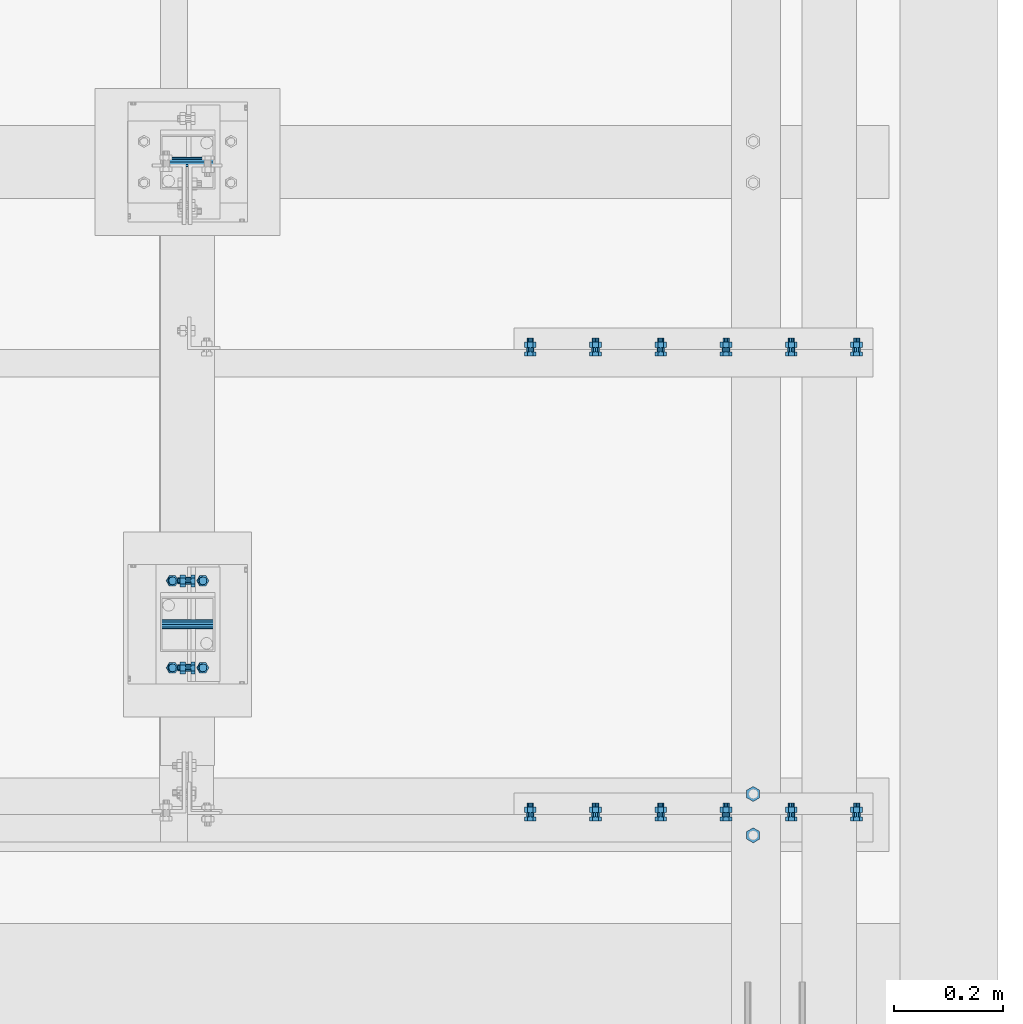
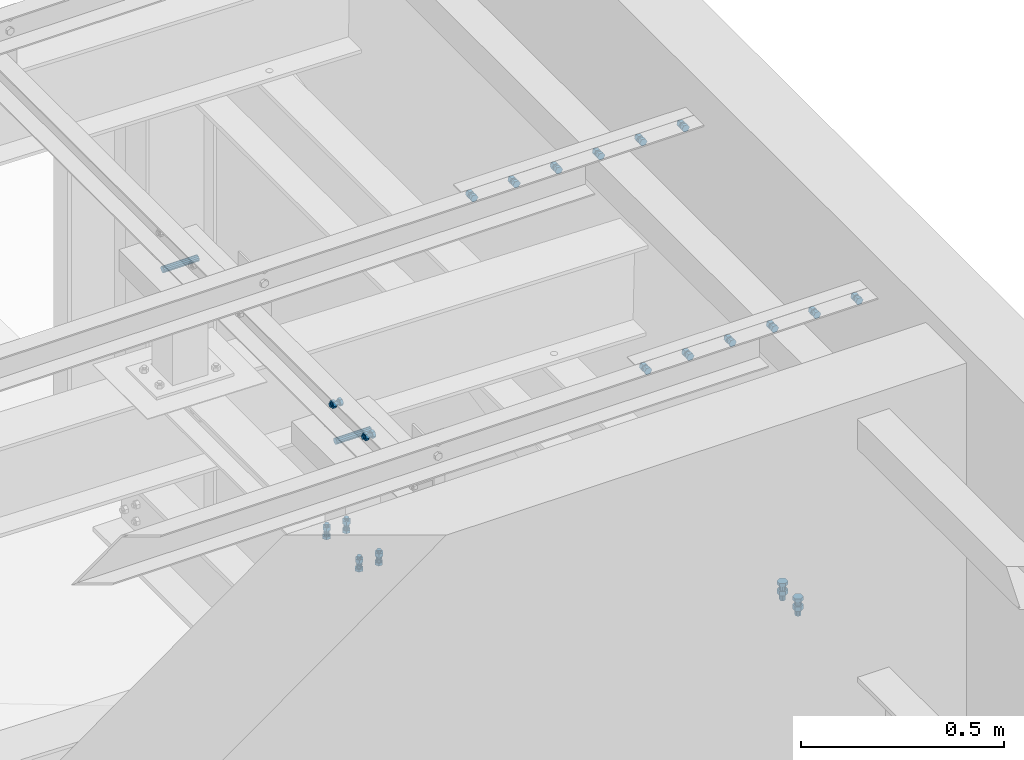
# One storey, part 399 of 3134: 8 mechanical fasteners, 7 elements without a shape of their own.
"""IFC2X3 building model written with IfcOpenShell, lengths in millimetres."""

from ifc_helpers import new_model, si_unit, frame, origin_with_axes, place, context, subcontext, project, spatial, faceted_brep, source, transform, mapped, material, type_object, element, aggregate, save


model = new_model("IFC2X3")

# Units and contexts
model_context = context("Model", 3, precision=1e-05, world=origin_with_axes())
body_context = subcontext(model_context, "Body", "Model", "MODEL_VIEW")
ifc_project = project(units=[si_unit("LENGTHUNIT", "METRE", prefix="MILLI"), si_unit("AREAUNIT", "SQUARE_METRE"), si_unit("VOLUMEUNIT", "CUBIC_METRE"), si_unit("MASSUNIT", "GRAM", prefix="KILO"), si_unit("TIMEUNIT", "SECOND"), si_unit("PLANEANGLEUNIT", "RADIAN"), si_unit("SOLIDANGLEUNIT", "STERADIAN"), si_unit("THERMODYNAMICTEMPERATUREUNIT", "DEGREE_CELSIUS"), si_unit("LUMINOUSINTENSITYUNIT", "LUMEN")], contexts=[model_context])

# Site, building, storey
site_placement = place(None, origin_with_axes())
site = spatial("IfcSite", under=ifc_project, at=site_placement, CompositionType="ELEMENT")
building_placement = place(site_placement, origin_with_axes())
building = spatial("IfcBuilding", under=site, at=building_placement, Name="Undefined", CompositionType="ELEMENT")
storey_placement = place(building_placement, origin_with_axes())
storey = spatial("IfcBuildingStorey", under=building, at=storey_placement, Name="Undefined", CompositionType="ELEMENT", Elevation=0.0)

# Assembly, mechanical fastener
assembly_1_placement = place(storey_placement, origin_with_axes())
assembly_1 = element("IfcElementAssembly", 1, at=assembly_1_placement, inside=storey, AssemblyPlace="NOTDEFINED", PredefinedType="RIGID_FRAME")
ifc_material = material(Name="8.8")
mechanical_fastener_type = type_object("IfcMechanicalFastenerType", Name="Bolt assembly")
shared_shape_1 = source(origin_with_axes(), body_context, "Body", "Brep", [
    faceted_brep([(10.9696551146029, -14.0, 0.0), (5.48482755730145, -14.0, 9.5), (-5.48482755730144, -14.0, 9.5), (-10.9696551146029, -14.0, 1.34339530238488e-15), (-5.48482755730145, -14.0, -9.5), (5.48482755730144, -14.0, -9.50000000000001), (5.48482755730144, -6.0, -9.50000000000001), (-5.48482755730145, -6.0, -9.5), (-10.9696551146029, -6.0, 1.34339530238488e-15), (-5.48482755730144, -6.0, 9.5), (5.48482755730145, -6.0, 9.5), (10.9696551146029, -6.0, 0.0), (6.0, -6.0, 0.0), (5.19615242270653, -6.0, 3.00000000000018), (2.99999999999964, -6.0, 5.19615242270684), (-6.21801588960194e-13, -6.0, 6.0), (-3.00000000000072, -6.0, 5.19615242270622), (-5.19615242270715, -6.0, 2.9999999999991), (-6.0, -6.0, -1.24360317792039e-12), (-5.19615242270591, -6.0, -3.00000000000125), (-2.99999999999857, -6.0, -5.19615242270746), (1.85874342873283e-12, -6.0, -6.0), (3.00000000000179, -6.0, -5.1961524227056), (5.19615242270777, -6.0, -2.99999999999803), (5.19615242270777, 19.0, -2.99999999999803), (3.00000000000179, 19.0, -5.1961524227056), (1.85874342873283e-12, 19.0, -6.0), (-2.99999999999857, 19.0, -5.19615242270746), (-5.19615242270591, 19.0, -3.00000000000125), (-6.0, 19.0, -1.24360317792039e-12), (-5.19615242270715, 19.0, 2.9999999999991), (-3.00000000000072, 19.0, 5.19615242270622), (-6.21801588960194e-13, 19.0, 6.0), (2.99999999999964, 19.0, 5.19615242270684), (5.19615242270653, 19.0, 3.00000000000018), (6.0, 19.0, 0.0), (10.9696551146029, 4.00000000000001, 0.0), (5.48482755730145, 4.00000000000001, 9.5), (-5.48482755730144, 4.00000000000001, 9.5), (-10.9696551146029, 4.00000000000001, 1.34339530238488e-15), (-5.48482755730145, 4.00000000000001, -9.5), (5.48482755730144, 4.00000000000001, -9.50000000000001), (5.48482755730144, 14.0, -9.50000000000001), (-5.48482755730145, 14.0, -9.5), (-10.9696551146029, 14.0, 1.34339530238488e-15), (-5.48482755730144, 14.0, 9.5), (5.48482755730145, 14.0, 9.5), (10.9696551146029, 14.0, 0.0)], [[[0, 1, 2, 3, 4, 5]], [[6, 7, 8, 9, 10, 11]], [[0, 11, 10, 1]], [[1, 10, 9, 2]], [[2, 9, 8, 3]], [[3, 8, 7, 4]], [[4, 7, 6, 5]], [[5, 6, 11, 0]], [[12, 13, 14, 15, 16, 17, 18, 19, 20, 21, 22, 23]], [[24, 25, 26, 27, 28, 29, 30, 31, 32, 33, 34, 35]], [[12, 35, 34, 13]], [[13, 34, 33, 14]], [[14, 33, 32, 15]], [[15, 32, 31, 16]], [[16, 31, 30, 17]], [[17, 30, 29, 18]], [[18, 29, 28, 19]], [[19, 28, 27, 20]], [[20, 27, 26, 21]], [[21, 26, 25, 22]], [[22, 25, 24, 23]], [[23, 24, 35, 12]], [[36, 37, 38, 39, 40, 41]], [[42, 43, 44, 45, 46, 47]], [[36, 47, 46, 37]], [[37, 46, 45, 38]], [[38, 45, 44, 39]], [[39, 44, 43, 40]], [[40, 43, 42, 41]], [[41, 42, 47, 36]]]),
    faceted_brep([(7.0, -0.1, 0.0), (6.06217782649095, -0.1, 3.50000000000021), (3.49999999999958, -0.1, 6.06217782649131), (-7.25435187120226e-13, -0.1, 7.0), (-3.50000000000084, -0.1, 6.06217782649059), (-6.06217782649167, -0.1, 3.49999999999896), (-7.0, -0.1, -1.45087037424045e-12), (-6.06217782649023, -0.1, -3.50000000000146), (-3.49999999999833, -0.1, -6.06217782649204), (2.1685340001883e-12, -0.1, -7.0), (3.50000000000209, -0.1, -6.06217782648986), (6.0621778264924, -0.1, -3.4999999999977), (6.0621778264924, 4.00000000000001, -3.4999999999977), (3.50000000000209, 4.00000000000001, -6.06217782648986), (2.1685340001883e-12, 4.00000000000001, -7.0), (-3.49999999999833, 4.00000000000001, -6.06217782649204), (-6.06217782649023, 4.00000000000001, -3.50000000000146), (-7.0, 4.00000000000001, -1.45087037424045e-12), (-6.06217782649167, 4.00000000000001, 3.49999999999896), (-3.50000000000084, 4.00000000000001, 6.06217782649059), (-7.25435187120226e-13, 4.00000000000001, 7.0), (3.49999999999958, 4.00000000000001, 6.06217782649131), (6.06217782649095, 4.00000000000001, 3.50000000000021), (7.0, 4.00000000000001, 0.0), (7.0, -5.9, 0.0), (6.06217782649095, -5.9, 3.50000000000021), (3.49999999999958, -5.9, 6.06217782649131), (-7.25435187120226e-13, -5.9, 7.0), (-3.50000000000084, -5.9, 6.06217782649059), (-6.06217782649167, -5.9, 3.49999999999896), (-7.0, -5.9, -1.45087037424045e-12), (-6.06217782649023, -5.9, -3.50000000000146), (-3.49999999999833, -5.9, -6.06217782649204), (2.1685340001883e-12, -5.9, -7.0), (3.50000000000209, -5.9, -6.06217782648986), (6.0621778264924, -5.9, -3.4999999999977), (6.0621778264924, 0.0999999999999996, -3.4999999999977), (3.50000000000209, 0.0999999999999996, -6.06217782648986), (2.1685340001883e-12, 0.0999999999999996, -7.0), (-3.49999999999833, 0.0999999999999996, -6.06217782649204), (-6.06217782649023, 0.0999999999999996, -3.50000000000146), (-7.0, 0.0999999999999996, -1.45087037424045e-12), (-6.06217782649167, 0.0999999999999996, 3.49999999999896), (-3.50000000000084, 0.0999999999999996, 6.06217782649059), (-7.25435187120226e-13, 0.0999999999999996, 7.0), (3.49999999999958, 0.0999999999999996, 6.06217782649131), (6.06217782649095, 0.0999999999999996, 3.50000000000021), (7.0, 0.0999999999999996, 0.0)], [[[0, 1, 2, 3, 4, 5, 6, 7, 8, 9, 10, 11]], [[12, 13, 14, 15, 16, 17, 18, 19, 20, 21, 22, 23]], [[0, 23, 22, 1]], [[1, 22, 21, 2]], [[2, 21, 20, 3]], [[3, 20, 19, 4]], [[4, 19, 18, 5]], [[5, 18, 17, 6]], [[6, 17, 16, 7]], [[7, 16, 15, 8]], [[8, 15, 14, 9]], [[9, 14, 13, 10]], [[10, 13, 12, 11]], [[11, 12, 23, 0]], [[24, 25, 26, 27, 28, 29, 30, 31, 32, 33, 34, 35]], [[36, 37, 38, 39, 40, 41, 42, 43, 44, 45, 46, 47]], [[24, 47, 46, 25]], [[25, 46, 45, 26]], [[26, 45, 44, 27]], [[27, 44, 43, 28]], [[28, 43, 42, 29]], [[29, 42, 41, 30]], [[30, 41, 40, 31]], [[31, 40, 39, 32]], [[32, 39, 38, 33]], [[33, 38, 37, 34]], [[34, 37, 36, 35]], [[35, 36, 47, 24]]]),
])
mechanical_fastener_1_placement = place(assembly_1_placement, frame((78045.0, 26815.0, 5785.0), z_axis=(0.0, 0.0, 1.0), x_axis=(0.0, 1.0, 0.0)))
mechanical_fastener_1 = element("IfcMechanicalFastener", 2, at=mechanical_fastener_1_placement, type_object=mechanical_fastener_type, material=ifc_material, Name="Bolt assembly", NominalDiameter=12.0, NominalLength=25.0, context=body_context, shape_type="MappedRepresentation", body=[
    mapped(shared_shape_1, transform((0.0, 0.0, 0.0))),
    mapped(shared_shape_1, transform((160.0, 0.0, 0.0))),
])

assembly_2_placement = place(storey_placement, origin_with_axes())
assembly_2 = element("IfcElementAssembly", 3, at=assembly_2_placement, inside=storey, AssemblyPlace="NOTDEFINED", PredefinedType="RIGID_FRAME")
shared_shape_2 = source(origin_with_axes(), body_context, "Body", "Brep", [
    faceted_brep([(7.0, 13.0000253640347, 0.0), (6.06217782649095, 13.0000253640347, 3.50000000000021), (3.49999999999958, 13.0000253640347, 6.06217782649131), (-7.25435187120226e-13, 13.0000253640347, 7.0), (-3.50000000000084, 13.0000253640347, 6.06217782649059), (-6.06217782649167, 13.0000253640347, 3.49999999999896), (-7.0, 13.0000253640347, -1.45087037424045e-12), (-6.06217782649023, 13.0000253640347, -3.50000000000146), (-3.49999999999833, 13.0000253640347, -6.06217782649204), (2.1685340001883e-12, 13.0000253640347, -7.0), (3.50000000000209, 13.0000253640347, -6.06217782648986), (6.0621778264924, 13.0000253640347, -3.4999999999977), (6.0621778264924, 15.0999999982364, -3.4999999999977), (3.50000000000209, 15.0999999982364, -6.06217782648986), (2.1685340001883e-12, 15.0999999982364, -7.0), (-3.49999999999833, 15.0999999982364, -6.06217782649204), (-6.06217782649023, 15.0999999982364, -3.50000000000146), (-7.0, 15.0999999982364, -1.45087037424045e-12), (-6.06217782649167, 15.0999999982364, 3.49999999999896), (-3.50000000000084, 15.0999999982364, 6.06217782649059), (-7.25435187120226e-13, 15.0999999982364, 7.0), (3.49999999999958, 15.0999999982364, 6.06217782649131), (6.06217782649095, 15.0999999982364, 3.50000000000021), (7.0, 15.0999999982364, 0.0)], [[[0, 1, 2, 3, 4, 5, 6, 7, 8, 9, 10, 11]], [[12, 13, 14, 15, 16, 17, 18, 19, 20, 21, 22, 23]], [[0, 23, 22, 1]], [[1, 22, 21, 2]], [[2, 21, 20, 3]], [[3, 20, 19, 4]], [[4, 19, 18, 5]], [[5, 18, 17, 6]], [[6, 17, 16, 7]], [[7, 16, 15, 8]], [[8, 15, 14, 9]], [[9, 14, 13, 10]], [[10, 13, 12, 11]], [[11, 12, 23, 0]]]),
])
mechanical_fastener_2_placement = place(assembly_2_placement, frame((78016.5453260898, 26894.9983647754, 5393.80060992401), z_axis=(0.0, -1.0, 0.0), x_axis=(0.999799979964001, 0.0, -0.0200000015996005)))
mechanical_fastener_2 = element("IfcMechanicalFastener", 4, at=mechanical_fastener_2_placement, type_object=mechanical_fastener_type, material=ifc_material, Name="Bolt assembly", NominalDiameter=12.0, NominalLength=2.0, context=body_context, shape_type="MappedRepresentation", body=[
    mapped(shared_shape_2, transform((0.0, -5.32963895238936e-10, -79.9999999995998))),
    mapped(shared_shape_2, transform((55.9999999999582, 4.54747350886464e-13, -80.0))),
    mapped(shared_shape_2, transform((0.0, 5.3114490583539e-10, 79.9999999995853))),
    mapped(shared_shape_2, transform((55.9999999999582, 4.54747350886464e-13, 80.0))),
])
aggregate(assembly_2, [mechanical_fastener_2])

# Mechanical fastener
shared_shape_3 = source(origin_with_axes(), body_context, "Body", "Brep", [
    faceted_brep([(9.0, -50.0, 0.0), (7.79422863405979, -50.0, 4.50000000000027), (4.49999999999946, -50.0, 7.79422863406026), (-9.3270238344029e-13, -50.0, 9.0), (-4.50000000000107, -50.0, 7.79422863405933), (-7.79422863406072, -50.0, 4.49999999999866), (-9.0, -50.0, -1.86540476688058e-12), (-7.79422863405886, -50.0, -4.50000000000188), (-4.49999999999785, -50.0, -7.79422863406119), (2.78811514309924e-12, -50.0, -9.0), (4.50000000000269, -50.0, -7.7942286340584), (7.79422863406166, -50.0, -4.49999999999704), (7.79422863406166, 50.1, -4.49999999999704), (4.50000000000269, 50.1, -7.7942286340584), (2.78811514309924e-12, 50.1, -9.0), (-4.49999999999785, 50.1, -7.79422863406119), (-7.79422863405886, 50.1, -4.50000000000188), (-9.0, 50.1, -1.86540476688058e-12), (-7.79422863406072, 50.1, 4.49999999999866), (-4.50000000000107, 50.1, 7.79422863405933), (-9.3270238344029e-13, 50.1, 9.0), (4.49999999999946, 50.1, 7.79422863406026), (7.79422863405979, 50.1, 4.50000000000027), (9.0, 50.1, 0.0)], [[[0, 1, 2, 3, 4, 5, 6, 7, 8, 9, 10, 11]], [[12, 13, 14, 15, 16, 17, 18, 19, 20, 21, 22, 23]], [[0, 23, 22, 1]], [[1, 22, 21, 2]], [[2, 21, 20, 3]], [[3, 20, 19, 4]], [[4, 19, 18, 5]], [[5, 18, 17, 6]], [[6, 17, 16, 7]], [[7, 16, 15, 8]], [[8, 15, 14, 9]], [[9, 14, 13, 10]], [[10, 13, 12, 11]], [[11, 12, 23, 0]]]),
])
mechanical_fastener_3_placement = place(assembly_1_placement, frame((78045.0, 26895.0, 5736.0), z_axis=(0.0, 1.0, 0.0), x_axis=(0.0, 0.0, 1.0)))
mechanical_fastener_3 = element("IfcMechanicalFastener", 5, at=mechanical_fastener_3_placement, type_object=mechanical_fastener_type, material=ifc_material, Name="Bolt assembly", NominalDiameter=16.0, NominalLength=100.0, context=body_context, shape_type="MappedRepresentation", body=[
    mapped(shared_shape_3, transform((0.0, 0.0, 0.0))),
])

aggregate(assembly_1, [mechanical_fastener_3, mechanical_fastener_1])

# Assembly, mechanical fastener
assembly_3_placement = place(storey_placement, origin_with_axes())
assembly_3 = element("IfcElementAssembly", 6, at=assembly_3_placement, inside=storey, AssemblyPlace="NOTDEFINED", PredefinedType="RIGID_FRAME")
mechanical_fastener_4_placement = place(assembly_3_placement, frame((78045.0, 27745.0, 5736.0), z_axis=(0.0, 1.0, 0.0), x_axis=(0.0, 0.0, 1.0)))
mechanical_fastener_4 = element("IfcMechanicalFastener", 7, at=mechanical_fastener_4_placement, type_object=mechanical_fastener_type, material=ifc_material, Name="Bolt assembly", NominalDiameter=16.0, NominalLength=100.0, context=body_context, shape_type="MappedRepresentation", body=[
    mapped(shared_shape_3, transform((0.0, 0.0, 0.0))),
])
aggregate(assembly_3, [mechanical_fastener_4])

assembly_4_placement = place(storey_placement, origin_with_axes())
assembly_4 = element("IfcElementAssembly", 8, at=assembly_4_placement, inside=storey, Name="UPN260", AssemblyPlace="NOTDEFINED", PredefinedType="RIGID_FRAME")
shared_shape_4 = source(origin_with_axes(), body_context, "Body", "Brep", [
    faceted_brep([(13.856406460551, -10.0, 0.0), (6.92820323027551, -10.0, 12.0), (-6.92820323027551, -10.0, 12.0), (-13.856406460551, -10.0, 1.69692038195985e-15), (-6.92820323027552, -10.0, -12.0), (6.9282032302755, -10.0, -12.0), (6.9282032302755, 0.0, -12.0), (-6.92820323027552, 0.0, -12.0), (-13.856406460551, 0.0, 1.69692038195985e-15), (-6.92820323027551, 0.0, 12.0), (6.92820323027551, 0.0, 12.0), (13.856406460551, 0.0, 0.0), (8.0, 0.0, 0.0), (6.92820323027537, 0.0, 4.00000000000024), (3.99999999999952, 0.0, 6.92820323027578), (-8.29068785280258e-13, 0.0, 8.0), (-4.00000000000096, 0.0, 6.92820323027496), (-6.9282032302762, 0.0, 3.99999999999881), (-8.0, 0.0, -1.65813757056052e-12), (-6.92820323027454, 0.0, -4.00000000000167), (-3.99999999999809, 0.0, -6.92820323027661), (2.47832457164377e-12, 0.0, -8.0), (4.00000000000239, 0.0, -6.92820323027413), (6.92820323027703, 0.0, -3.99999999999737), (6.92820323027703, 45.0, -3.99999999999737), (4.00000000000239, 45.0, -6.92820323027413), (2.47832457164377e-12, 45.0, -8.0), (-3.99999999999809, 45.0, -6.92820323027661), (-6.92820323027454, 45.0, -4.00000000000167), (-8.0, 45.0, -1.65813757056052e-12), (-6.9282032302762, 45.0, 3.99999999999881), (-4.00000000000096, 45.0, 6.92820323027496), (-8.29068785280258e-13, 45.0, 8.0), (3.99999999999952, 45.0, 6.92820323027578), (6.92820323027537, 45.0, 4.00000000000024), (8.0, 45.0, 0.0), (13.856406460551, 13.9999999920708, 0.0), (6.92820323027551, 13.9999999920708, 12.0), (-6.92820323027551, 13.9999999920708, 12.0), (-13.856406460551, 13.9999999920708, 1.69692038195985e-15), (-6.92820323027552, 13.9999999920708, -12.0), (6.9282032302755, 13.9999999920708, -12.0), (6.9282032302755, 27.0, -12.0), (-6.92820323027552, 27.0, -12.0), (-13.856406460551, 27.0, 1.69692038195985e-15), (-6.92820323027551, 27.0, 12.0), (6.92820323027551, 27.0, 12.0), (13.856406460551, 27.0, 0.0)], [[[0, 1, 2, 3, 4, 5]], [[6, 7, 8, 9, 10, 11]], [[0, 11, 10, 1]], [[1, 10, 9, 2]], [[2, 9, 8, 3]], [[3, 8, 7, 4]], [[4, 7, 6, 5]], [[5, 6, 11, 0]], [[12, 13, 14, 15, 16, 17, 18, 19, 20, 21, 22, 23]], [[24, 25, 26, 27, 28, 29, 30, 31, 32, 33, 34, 35]], [[12, 35, 34, 13]], [[13, 34, 33, 14]], [[14, 33, 32, 15]], [[15, 32, 31, 16]], [[16, 31, 30, 17]], [[17, 30, 29, 18]], [[18, 29, 28, 19]], [[19, 28, 27, 20]], [[20, 27, 26, 21]], [[21, 26, 25, 22]], [[22, 25, 24, 23]], [[23, 24, 35, 12]], [[36, 37, 38, 39, 40, 41]], [[42, 43, 44, 45, 46, 47]], [[36, 47, 46, 37]], [[37, 46, 45, 38]], [[38, 45, 44, 39]], [[39, 44, 43, 40]], [[40, 43, 42, 41]], [[41, 42, 47, 36]]]),
    faceted_brep([(9.0, -3.46568413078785e-07, 0.0), (7.79422863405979, -3.46568413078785e-07, 4.50000000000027), (4.49999999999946, -3.46568413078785e-07, 7.79422863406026), (-9.3270238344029e-13, -3.46568413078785e-07, 9.0), (-4.50000000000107, -3.46568413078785e-07, 7.79422863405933), (-7.79422863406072, -3.46568413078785e-07, 4.49999999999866), (-9.0, -3.46568413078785e-07, -1.86540476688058e-12), (-7.79422863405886, -3.46568413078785e-07, -4.50000000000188), (-4.49999999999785, -3.46568413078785e-07, -7.79422863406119), (2.78811514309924e-12, -3.46568413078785e-07, -9.0), (4.50000000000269, -3.46568413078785e-07, -7.7942286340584), (7.79422863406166, -3.46568413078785e-07, -4.49999999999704), (7.79422863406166, 14.1000000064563, -4.49999999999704), (4.50000000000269, 14.1000000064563, -7.7942286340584), (2.78811514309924e-12, 14.1000000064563, -9.0), (-4.49999999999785, 14.1000000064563, -7.79422863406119), (-7.79422863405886, 14.1000000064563, -4.50000000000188), (-9.0, 14.1000000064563, -1.86540476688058e-12), (-7.79422863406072, 14.1000000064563, 4.49999999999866), (-4.50000000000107, 14.1000000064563, 7.79422863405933), (-9.3270238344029e-13, 14.1000000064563, 9.0), (4.49999999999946, 14.1000000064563, 7.79422863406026), (7.79422863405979, 14.1000000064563, 4.50000000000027), (9.0, 14.1000000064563, 0.0)], [[[0, 1, 2, 3, 4, 5, 6, 7, 8, 9, 10, 11]], [[12, 13, 14, 15, 16, 17, 18, 19, 20, 21, 22, 23]], [[0, 23, 22, 1]], [[1, 22, 21, 2]], [[2, 21, 20, 3]], [[3, 20, 19, 4]], [[4, 19, 18, 5]], [[5, 18, 17, 6]], [[6, 17, 16, 7]], [[7, 16, 15, 8]], [[8, 15, 14, 9]], [[9, 14, 13, 10]], [[10, 13, 12, 11]], [[11, 12, 23, 0]]]),
])
mechanical_fastener_5_placement = place(assembly_4_placement, frame((79085.0, 26507.0, 5114.384809), z_axis=(-1.0, 0.0, 0.0), x_axis=(0.0, 1.0, 0.0)))
mechanical_fastener_5 = element("IfcMechanicalFastener", 9, at=mechanical_fastener_5_placement, type_object=mechanical_fastener_type, material=ifc_material, Name="Bolt assembly", NominalDiameter=16.0, NominalLength=45.0, context=body_context, shape_type="MappedRepresentation", body=[
    mapped(shared_shape_4, transform((0.0, 0.0, 0.0))),
    mapped(shared_shape_4, transform((76.0, 0.0, 0.0))),
])
aggregate(assembly_4, [mechanical_fastener_5])

assembly_5_placement = place(storey_placement, origin_with_axes())
assembly_5 = element("IfcElementAssembly", 10, at=assembly_5_placement, inside=storey, AssemblyPlace="NOTDEFINED", PredefinedType="RIGID_FRAME")
shared_shape_5 = source(origin_with_axes(), body_context, "Body", "Brep", [
    faceted_brep([(10.9696551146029, -12.0, 0.0), (5.48482755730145, -12.0, 9.5), (-5.48482755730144, -12.0, 9.5), (-10.9696551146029, -12.0, 1.34339530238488e-15), (-5.48482755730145, -12.0, -9.5), (5.48482755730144, -12.0, -9.50000000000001), (5.48482755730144, -4.0, -9.50000000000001), (-5.48482755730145, -4.0, -9.5), (-10.9696551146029, -4.0, 1.34339530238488e-15), (-5.48482755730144, -4.0, 9.5), (5.48482755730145, -4.0, 9.5), (10.9696551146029, -4.0, 0.0), (6.0, -4.0, 0.0), (5.19615242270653, -4.0, 3.00000000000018), (2.99999999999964, -4.0, 5.19615242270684), (-6.21801588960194e-13, -4.0, 6.0), (-3.00000000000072, -4.0, 5.19615242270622), (-5.19615242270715, -4.0, 2.9999999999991), (-6.0, -4.0, -1.24360317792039e-12), (-5.19615242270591, -4.0, -3.00000000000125), (-2.99999999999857, -4.0, -5.19615242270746), (1.85874342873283e-12, -4.0, -6.0), (3.00000000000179, -4.0, -5.1961524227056), (5.19615242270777, -4.0, -2.99999999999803), (5.19615242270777, 21.0, -2.99999999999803), (3.00000000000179, 21.0, -5.1961524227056), (1.85874342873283e-12, 21.0, -6.0), (-2.99999999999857, 21.0, -5.19615242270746), (-5.19615242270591, 21.0, -3.00000000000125), (-6.0, 21.0, -1.24360317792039e-12), (-5.19615242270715, 21.0, 2.9999999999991), (-3.00000000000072, 21.0, 5.19615242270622), (-6.21801588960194e-13, 21.0, 6.0), (2.99999999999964, 21.0, 5.19615242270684), (5.19615242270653, 21.0, 3.00000000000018), (6.0, 21.0, 0.0), (10.9696551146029, 4.00000000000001, 0.0), (5.48482755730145, 4.00000000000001, 9.5), (-5.48482755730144, 4.00000000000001, 9.5), (-10.9696551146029, 4.00000000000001, 1.34339530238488e-15), (-5.48482755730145, 4.00000000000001, -9.5), (5.48482755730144, 4.00000000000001, -9.50000000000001), (5.48482755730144, 14.0, -9.50000000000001), (-5.48482755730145, 14.0, -9.5), (-10.9696551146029, 14.0, 1.34339530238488e-15), (-5.48482755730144, 14.0, 9.5), (5.48482755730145, 14.0, 9.5), (10.9696551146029, 14.0, 0.0)], [[[0, 1, 2, 3, 4, 5]], [[6, 7, 8, 9, 10, 11]], [[0, 11, 10, 1]], [[1, 10, 9, 2]], [[2, 9, 8, 3]], [[3, 8, 7, 4]], [[4, 7, 6, 5]], [[5, 6, 11, 0]], [[12, 13, 14, 15, 16, 17, 18, 19, 20, 21, 22, 23]], [[24, 25, 26, 27, 28, 29, 30, 31, 32, 33, 34, 35]], [[12, 35, 34, 13]], [[13, 34, 33, 14]], [[14, 33, 32, 15]], [[15, 32, 31, 16]], [[16, 31, 30, 17]], [[17, 30, 29, 18]], [[18, 29, 28, 19]], [[19, 28, 27, 20]], [[20, 27, 26, 21]], [[21, 26, 25, 22]], [[22, 25, 24, 23]], [[23, 24, 35, 12]], [[36, 37, 38, 39, 40, 41]], [[42, 43, 44, 45, 46, 47]], [[36, 47, 46, 37]], [[37, 46, 45, 38]], [[38, 45, 44, 39]], [[39, 44, 43, 40]], [[40, 43, 42, 41]], [[41, 42, 47, 36]]]),
    faceted_brep([(7.0, -3.9, 0.0), (6.06217782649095, -3.9, 3.50000000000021), (3.49999999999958, -3.9, 6.06217782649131), (-7.25435187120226e-13, -3.9, 7.0), (-3.50000000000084, -3.9, 6.06217782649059), (-6.06217782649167, -3.9, 3.49999999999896), (-7.0, -3.9, -1.45087037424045e-12), (-6.06217782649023, -3.9, -3.50000000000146), (-3.49999999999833, -3.9, -6.06217782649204), (2.1685340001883e-12, -3.9, -7.0), (3.50000000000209, -3.9, -6.06217782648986), (6.0621778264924, -3.9, -3.4999999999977), (6.0621778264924, 0.0999999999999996, -3.4999999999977), (3.50000000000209, 0.0999999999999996, -6.06217782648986), (2.1685340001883e-12, 0.0999999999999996, -7.0), (-3.49999999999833, 0.0999999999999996, -6.06217782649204), (-6.06217782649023, 0.0999999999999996, -3.50000000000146), (-7.0, 0.0999999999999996, -1.45087037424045e-12), (-6.06217782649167, 0.0999999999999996, 3.49999999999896), (-3.50000000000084, 0.0999999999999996, 6.06217782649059), (-7.25435187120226e-13, 0.0999999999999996, 7.0), (3.49999999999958, 0.0999999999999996, 6.06217782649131), (6.06217782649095, 0.0999999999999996, 3.50000000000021), (7.0, 0.0999999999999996, 0.0), (7.0, -0.1, 0.0), (6.06217782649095, -0.1, 3.50000000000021), (3.49999999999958, -0.1, 6.06217782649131), (-7.25435187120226e-13, -0.1, 7.0), (-3.50000000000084, -0.1, 6.06217782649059), (-6.06217782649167, -0.1, 3.49999999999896), (-7.0, -0.1, -1.45087037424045e-12), (-6.06217782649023, -0.1, -3.50000000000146), (-3.49999999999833, -0.1, -6.06217782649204), (2.1685340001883e-12, -0.1, -7.0), (3.50000000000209, -0.1, -6.06217782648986), (6.0621778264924, -0.1, -3.4999999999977), (6.0621778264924, 4.00000000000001, -3.4999999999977), (3.50000000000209, 4.00000000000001, -6.06217782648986), (2.1685340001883e-12, 4.00000000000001, -7.0), (-3.49999999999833, 4.00000000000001, -6.06217782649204), (-6.06217782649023, 4.00000000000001, -3.50000000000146), (-7.0, 4.00000000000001, -1.45087037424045e-12), (-6.06217782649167, 4.00000000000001, 3.49999999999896), (-3.50000000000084, 4.00000000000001, 6.06217782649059), (-7.25435187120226e-13, 4.00000000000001, 7.0), (3.49999999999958, 4.00000000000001, 6.06217782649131), (6.06217782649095, 4.00000000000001, 3.50000000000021), (7.0, 4.00000000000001, 0.0)], [[[0, 1, 2, 3, 4, 5, 6, 7, 8, 9, 10, 11]], [[12, 13, 14, 15, 16, 17, 18, 19, 20, 21, 22, 23]], [[0, 23, 22, 1]], [[1, 22, 21, 2]], [[2, 21, 20, 3]], [[3, 20, 19, 4]], [[4, 19, 18, 5]], [[5, 18, 17, 6]], [[6, 17, 16, 7]], [[7, 16, 15, 8]], [[8, 15, 14, 9]], [[9, 14, 13, 10]], [[10, 13, 12, 11]], [[11, 12, 23, 0]], [[24, 25, 26, 27, 28, 29, 30, 31, 32, 33, 34, 35]], [[36, 37, 38, 39, 40, 41, 42, 43, 44, 45, 46, 47]], [[24, 47, 46, 25]], [[25, 46, 45, 26]], [[26, 45, 44, 27]], [[27, 44, 43, 28]], [[28, 43, 42, 29]], [[29, 42, 41, 30]], [[30, 41, 40, 31]], [[31, 40, 39, 32]], [[32, 39, 38, 33]], [[33, 38, 37, 34]], [[34, 37, 36, 35]], [[35, 36, 47, 24]]]),
])
mechanical_fastener_6_placement = place(assembly_5_placement, frame((78675.0, 27400.0, 5928.0), z_axis=(0.0, 0.0, 1.0), x_axis=(1.0, 0.0, 0.0)))
mechanical_fastener_6 = element("IfcMechanicalFastener", 11, at=mechanical_fastener_6_placement, type_object=mechanical_fastener_type, material=ifc_material, Name="Bolt assembly", NominalDiameter=12.0, NominalLength=25.0, context=body_context, shape_type="MappedRepresentation", body=[
    mapped(shared_shape_5, transform((0.0, 0.0, 0.0))),
    mapped(shared_shape_5, transform((120.0, 0.0, 0.0))),
    mapped(shared_shape_5, transform((240.0, 0.0, 0.0))),
    mapped(shared_shape_5, transform((360.0, 0.0, 0.0))),
    mapped(shared_shape_5, transform((480.0, 0.0, 0.0))),
    mapped(shared_shape_5, transform((600.0, 0.0, 0.0))),
])
aggregate(assembly_5, [mechanical_fastener_6])

assembly_6_placement = place(storey_placement, origin_with_axes())
assembly_6 = element("IfcElementAssembly", 12, at=assembly_6_placement, inside=storey, AssemblyPlace="NOTDEFINED", PredefinedType="RIGID_FRAME")
mechanical_fastener_7_placement = place(assembly_6_placement, frame((78675.0, 26545.0, 5928.0), z_axis=(0.0, 0.0, 1.0), x_axis=(1.0, 0.0, 0.0)))
mechanical_fastener_7 = element("IfcMechanicalFastener", 13, at=mechanical_fastener_7_placement, type_object=mechanical_fastener_type, material=ifc_material, Name="Bolt assembly", NominalDiameter=12.0, NominalLength=25.0, context=body_context, shape_type="MappedRepresentation", body=[
    mapped(shared_shape_5, transform((0.0, 0.0, 0.0))),
    mapped(shared_shape_5, transform((120.0, 0.0, 0.0))),
    mapped(shared_shape_5, transform((240.0, 0.0, 0.0))),
    mapped(shared_shape_5, transform((360.0, 0.0, 0.0))),
    mapped(shared_shape_5, transform((480.0, 0.0, 0.0))),
    mapped(shared_shape_5, transform((600.0, 0.0, 0.0))),
])
aggregate(assembly_6, [mechanical_fastener_7])

assembly_7_placement = place(storey_placement, origin_with_axes())
assembly_7 = element("IfcElementAssembly", 14, at=assembly_7_placement, inside=storey, Name="HEA100", AssemblyPlace="NOTDEFINED", PredefinedType="RIGID_FRAME")
shared_shape_6 = source(origin_with_axes(), body_context, "Body", "Brep", [
    faceted_brep([(10.9696551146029, 0.00795471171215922, 0.0), (5.48482755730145, 0.00795471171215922, 9.5), (-5.48482755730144, 0.00795471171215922, 9.5), (-10.9696551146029, 0.00795471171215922, 1.34339530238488e-15), (-5.48482755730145, 0.00795471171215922, -9.5), (5.48482755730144, 0.00795471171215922, -9.50000000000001), (5.48482755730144, 8.00795471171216, -9.50000000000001), (-5.48482755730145, 8.00795471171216, -9.5), (-10.9696551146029, 8.00795471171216, 1.34339530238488e-15), (-5.48482755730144, 8.00795471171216, 9.5), (5.48482755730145, 8.00795471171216, 9.5), (10.9696551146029, 8.00795471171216, 0.0), (6.0, 8.00795471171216, 0.0), (5.19615242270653, 8.00795471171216, 3.00000000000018), (2.99999999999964, 8.00795471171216, 5.19615242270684), (-6.21801588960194e-13, 8.00795471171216, 6.0), (-3.00000000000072, 8.00795471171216, 5.19615242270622), (-5.19615242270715, 8.00795471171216, 2.9999999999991), (-6.0, 8.00795471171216, -1.24360317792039e-12), (-5.19615242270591, 8.00795471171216, -3.00000000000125), (-2.99999999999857, 8.00795471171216, -5.19615242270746), (1.85874342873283e-12, 8.00795471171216, -6.0), (3.00000000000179, 8.00795471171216, -5.1961524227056), (5.19615242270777, 8.00795471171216, -2.99999999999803), (5.19615242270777, 43.0079547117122, -2.99999999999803), (3.00000000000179, 43.0079547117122, -5.1961524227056), (1.85874342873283e-12, 43.0079547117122, -6.0), (-2.99999999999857, 43.0079547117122, -5.19615242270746), (-5.19615242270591, 43.0079547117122, -3.00000000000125), (-6.0, 43.0079547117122, -1.24360317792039e-12), (-5.19615242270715, 43.0079547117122, 2.9999999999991), (-3.00000000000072, 43.0079547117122, 5.19615242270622), (-6.21801588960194e-13, 43.0079547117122, 6.0), (2.99999999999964, 43.0079547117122, 5.19615242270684), (5.19615242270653, 43.0079547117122, 3.00000000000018), (6.0, 43.0079547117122, 0.0), (10.9696551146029, 26.0249922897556, 0.0), (5.48482755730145, 26.0249922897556, 9.5), (-5.48482755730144, 26.0249922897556, 9.5), (-10.9696551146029, 26.0249922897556, 1.34339530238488e-15), (-5.48482755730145, 26.0249922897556, -9.5), (5.48482755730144, 26.0249922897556, -9.50000000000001), (5.48482755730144, 36.0249922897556, -9.50000000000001), (-5.48482755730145, 36.0249922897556, -9.5), (-10.9696551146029, 36.0249922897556, 1.34339530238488e-15), (-5.48482755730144, 36.0249922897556, 9.5), (5.48482755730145, 36.0249922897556, 9.5), (10.9696551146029, 36.0249922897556, 0.0)], [[[0, 1, 2, 3, 4, 5]], [[6, 7, 8, 9, 10, 11]], [[0, 11, 10, 1]], [[1, 10, 9, 2]], [[2, 9, 8, 3]], [[3, 8, 7, 4]], [[4, 7, 6, 5]], [[5, 6, 11, 0]], [[12, 13, 14, 15, 16, 17, 18, 19, 20, 21, 22, 23]], [[24, 25, 26, 27, 28, 29, 30, 31, 32, 33, 34, 35]], [[12, 35, 34, 13]], [[13, 34, 33, 14]], [[14, 33, 32, 15]], [[15, 32, 31, 16]], [[16, 31, 30, 17]], [[17, 30, 29, 18]], [[18, 29, 28, 19]], [[19, 28, 27, 20]], [[20, 27, 26, 21]], [[21, 26, 25, 22]], [[22, 25, 24, 23]], [[23, 24, 35, 12]], [[36, 37, 38, 39, 40, 41]], [[42, 43, 44, 45, 46, 47]], [[36, 47, 46, 37]], [[37, 46, 45, 38]], [[38, 45, 44, 39]], [[39, 44, 43, 40]], [[40, 43, 42, 41]], [[41, 42, 47, 36]]]),
    faceted_brep([(7.0, 17.9249922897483, 0.0), (6.06217782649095, 17.9249922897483, 3.50000000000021), (3.49999999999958, 17.9249922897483, 6.06217782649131), (-7.25435187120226e-13, 17.9249922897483, 7.0), (-3.50000000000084, 17.9249922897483, 6.06217782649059), (-6.06217782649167, 17.9249922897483, 3.49999999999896), (-7.0, 17.9249922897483, -1.45087037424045e-12), (-6.06217782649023, 17.9249922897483, -3.50000000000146), (-3.49999999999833, 17.9249922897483, -6.06217782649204), (2.1685340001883e-12, 17.9249922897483, -7.0), (3.50000000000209, 17.9249922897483, -6.06217782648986), (6.0621778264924, 17.9249922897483, -3.4999999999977), (6.0621778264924, 26.0249922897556, -3.4999999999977), (3.50000000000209, 26.0249922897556, -6.06217782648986), (2.1685340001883e-12, 26.0249922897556, -7.0), (-3.49999999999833, 26.0249922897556, -6.06217782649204), (-6.06217782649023, 26.0249922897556, -3.50000000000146), (-7.0, 26.0249922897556, -1.45087037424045e-12), (-6.06217782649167, 26.0249922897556, 3.49999999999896), (-3.50000000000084, 26.0249922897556, 6.06217782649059), (-7.25435187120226e-13, 26.0249922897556, 7.0), (3.49999999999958, 26.0249922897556, 6.06217782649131), (6.06217782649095, 26.0249922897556, 3.50000000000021), (7.0, 26.0249922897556, 0.0), (7.0, 8.10795471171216, 0.0), (6.06217782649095, 8.10795471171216, 3.50000000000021), (3.49999999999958, 8.10795471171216, 6.06217782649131), (-7.25435187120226e-13, 8.10795471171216, 7.0), (-3.50000000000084, 8.10795471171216, 6.06217782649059), (-6.06217782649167, 8.10795471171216, 3.49999999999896), (-7.0, 8.10795471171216, -1.45087037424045e-12), (-6.06217782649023, 8.10795471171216, -3.50000000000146), (-3.49999999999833, 8.10795471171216, -6.06217782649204), (2.1685340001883e-12, 8.10795471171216, -7.0), (3.50000000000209, 8.10795471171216, -6.06217782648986), (6.0621778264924, 8.10795471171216, -3.4999999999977), (6.0621778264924, 16.1079390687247, -3.4999999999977), (3.50000000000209, 16.1079390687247, -6.06217782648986), (2.1685340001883e-12, 16.1079390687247, -7.0), (-3.49999999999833, 16.1079390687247, -6.06217782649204), (-6.06217782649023, 16.1079390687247, -3.50000000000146), (-7.0, 16.1079390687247, -1.45087037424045e-12), (-6.06217782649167, 16.1079390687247, 3.49999999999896), (-3.50000000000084, 16.1079390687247, 6.06217782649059), (-7.25435187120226e-13, 16.1079390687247, 7.0), (3.49999999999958, 16.1079390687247, 6.06217782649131), (6.06217782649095, 16.1079390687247, 3.50000000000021), (7.0, 16.1079390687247, 0.0)], [[[0, 1, 2, 3, 4, 5, 6, 7, 8, 9, 10, 11]], [[12, 13, 14, 15, 16, 17, 18, 19, 20, 21, 22, 23]], [[0, 23, 22, 1]], [[1, 22, 21, 2]], [[2, 21, 20, 3]], [[3, 20, 19, 4]], [[4, 19, 18, 5]], [[5, 18, 17, 6]], [[6, 17, 16, 7]], [[7, 16, 15, 8]], [[8, 15, 14, 9]], [[9, 14, 13, 10]], [[10, 13, 12, 11]], [[11, 12, 23, 0]], [[24, 25, 26, 27, 28, 29, 30, 31, 32, 33, 34, 35]], [[36, 37, 38, 39, 40, 41, 42, 43, 44, 45, 46, 47]], [[24, 47, 46, 25]], [[25, 46, 45, 26]], [[26, 45, 44, 27]], [[27, 44, 43, 28]], [[28, 43, 42, 29]], [[29, 42, 41, 30]], [[30, 41, 40, 31]], [[31, 40, 39, 32]], [[32, 39, 38, 33]], [[33, 38, 37, 34]], [[34, 37, 36, 35]], [[35, 36, 47, 24]]]),
])
mechanical_fastener_8_placement = place(assembly_7_placement, frame((78016.487320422, 26894.9983647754, 5390.790071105), z_axis=(0.0, -1.0, 0.0), x_axis=(0.999799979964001, 0.0, -0.0200000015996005)))
mechanical_fastener_8 = element("IfcMechanicalFastener", 15, at=mechanical_fastener_8_placement, type_object=mechanical_fastener_type, material=ifc_material, Name="Bolt assembly", NominalDiameter=12.0, NominalLength=35.0, context=body_context, shape_type="MappedRepresentation", body=[
    mapped(shared_shape_6, transform((0.0, -5.32963895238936e-10, -79.9999999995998))),
    mapped(shared_shape_6, transform((55.9999999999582, 4.54747350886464e-13, -80.0))),
    mapped(shared_shape_6, transform((0.0, 5.3114490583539e-10, 79.9999999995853))),
    mapped(shared_shape_6, transform((55.9999999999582, 4.54747350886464e-13, 80.0))),
])
aggregate(assembly_7, [mechanical_fastener_8])

save(model, "model.ifc")
